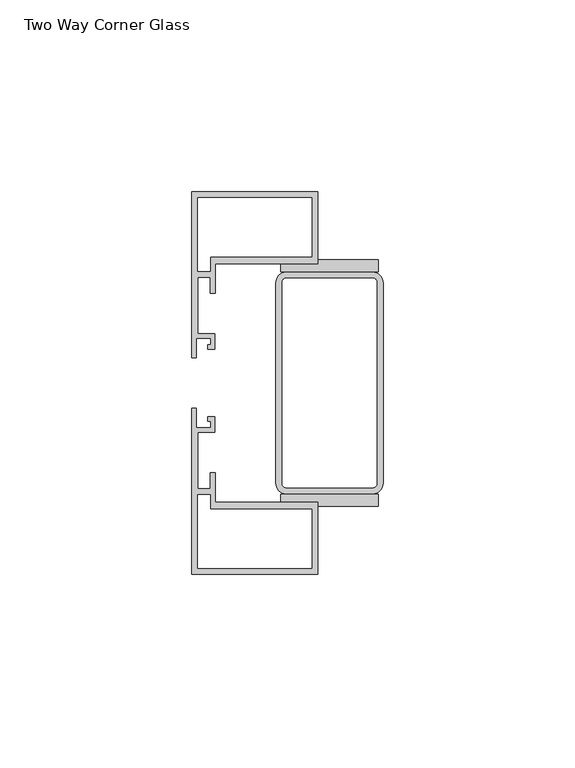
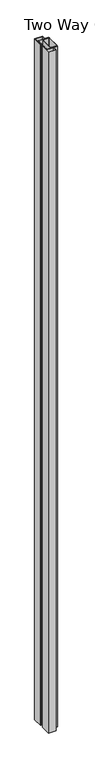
"""IFC4 building model written with IfcOpenShell, lengths in millimetres: proxy geometry, Connection-Corner-Teknion-OptosLP-Two_Way_FZCA1 : Two Way Corner Glass."""

from ifc_helpers import new_model, si_unit, frame, origin, origin_with_axes, place, context, project, spatial, polyline, circle_curve, outline, extrude, source, transform, mapped, element, save
from ifc_brep_helpers import plane_surface, cylinder_surface, revolved_surface, advanced_brep


def two_way_corner_glass_e2119c69(model_context):
    return source(origin(), model_context, "Body", "SolidModel", [
        extrude(outline(polyline([(-36.0146603, 6.5532999), (-36.0146603, 49.9872999), (-2.9946594, 49.9872999), (-2.9946594, 31.1912996), (-29.7916594, 31.1912996), (-29.7916594, 23.4881452), (-31.0616605, 23.4881452), (-31.0616605, 27.6606989), (-34.3636596, 27.6606989), (-34.3636596, 12.9032989), (-29.9186593, 12.9032989), (-29.9186593, 8.8393), (-31.7601598, 8.8393), (-31.7601598, 9.9822994), (-30.9346583, 9.9822994), (-30.9346583, 11.633299), (-34.7446615, 11.633299), (-34.7446615, 6.5532999), (-36.0146603, 6.5532999)]), holes=[polyline([(-31.0616605, 32.9946984), (-4.6456596, 32.9946984), (-4.6456596, 48.3363015), (-34.3636596, 48.3363015), (-34.3636596, 29.1846997), (-31.0616605, 29.1846997), (-31.0616605, 32.9946984)])]), origin_with_axes(), (0.0, 0.0, 1.0), 3048.0),
        extrude(outline(polyline([(-36.0146603, -49.9872999), (-36.0146603, -6.5532999), (-34.7446615, -6.5532999), (-34.7446615, -11.633299), (-30.9346583, -11.633299), (-30.9346583, -9.9822994), (-31.7601598, -9.9822994), (-31.7601598, -8.8393), (-29.9186593, -8.8393), (-29.9186593, -12.9032989), (-34.3636596, -12.9032989), (-34.3636596, -27.6606989), (-31.0616605, -27.6606989), (-31.0616605, -23.4881452), (-29.7916594, -23.4881452), (-29.7916594, -31.1912996), (-2.9946594, -31.1912996), (-2.9946594, -49.9872999), (-36.0146603, -49.9872999)]), holes=[polyline([(-31.0616605, -32.9946984), (-31.0616605, -29.1846997), (-34.3636596, -29.1846997), (-34.3636596, -48.3363015), (-4.6456596, -48.3363015), (-4.6456596, -32.9946984), (-31.0616605, -32.9946984)])]), origin_with_axes(), (0.0, 0.0, 1.0), 3048.0),
        extrude(outline(polyline([(12.7046009, 28.9941), (-12.6953999, 28.9941), (-12.6953999, 32.1690992), (12.7046009, 32.1690992), (12.7046009, 28.9941)])), origin_with_axes(), (0.0, 0.0, 1.0), 3048.0),
        extrude(outline(polyline([(12.7046009, -28.9941), (12.7046009, -32.1945002), (-12.6953999, -32.1945002), (-12.6953999, -28.9941), (12.7046009, -28.9941)])), origin_with_axes(), (0.0, 0.0, 1.0), 3048.0),
        advanced_brep(
        [(11.2013993, 28.9941, 3048.0), (-11.2013993, 28.9941, 3048.0), (-13.9954, 26.2000993, 3048.0), (-13.9954, -26.2000993, 3048.0), (-11.2013993, -28.9941, 3048.0), (11.2013993, -28.9941, 3048.0), (13.9954, -26.2000993, 3048.0), (14.004601, 26.2001004, 3048.0), (11.2013993, 27.3685, 3048.0), (12.3698, 26.2000993, 3048.0), (12.379001, -26.2000993, 3048.0), (11.2013993, -27.3685, 3048.0), (-11.2013993, -27.3685, 3048.0), (-12.3698, -26.2000993, 3048.0), (-12.3698, 26.2000993, 3048.0), (-11.2013993, 27.3685, 3048.0), (11.2013993, 28.9941, 0.0), (13.9954, 26.2000993, 0.0), (14.004601, -26.2000993, 0.0), (11.2013993, -28.9941, 0.0), (-11.2013993, -28.9941, 0.0), (-13.9954, -26.2000993, 0.0), (-13.9954, 26.2000993, 0.0), (-11.2013993, 28.9941, 0.0), (11.2013993, 27.3685, 0.0), (-11.2013993, 27.3685, 0.0), (-12.3698, 26.2000993, 0.0), (-12.3698, -26.2000993, 0.0), (-11.2013993, -27.3685, 0.0), (11.2013993, -27.3685, 0.0), (12.3698, -26.2000993, 0.0), (12.379001, 26.2001004, 0.0)],
        [
            (0, 1),
            (1, 2, circle_curve(frame((-11.2013993, 26.2000993, 3048.0), z_axis=(0.0, 0.0, 1.0), x_axis=(0.0, -1.0, 0.0)), 2.7940007)),
            (2, 3),
            (3, 4, circle_curve(frame((-11.2013993, -26.2000993, 3048.0), z_axis=(0.0, 0.0, 1.0), x_axis=(0.0, -1.0, 0.0)), 2.7940007)),
            (4, 5),
            (5, 6, circle_curve(frame((11.2013993, -26.2000993, 3048.0), z_axis=(0.0, 0.0, 1.0), x_axis=(0.0, -1.0, 0.0)), 2.7940007)),
            (6, 7),
            (7, 0, circle_curve(frame((11.2013993, 26.2000993, 3048.0), z_axis=(0.0, 0.0, 1.0), x_axis=(0.0, -1.0, 0.0)), 2.7940007)),
            (8, 9, circle_curve(frame((11.2013993, 26.2000993, 3048.0), z_axis=(0.0, 0.0, -1.0), x_axis=(0.0, -1.0, 0.0)), 1.1684007)),
            (9, 10),
            (10, 11, circle_curve(frame((11.2013993, -26.2000993, 3048.0), z_axis=(0.0, 0.0, -1.0), x_axis=(0.0, -1.0, 0.0)), 1.1684007)),
            (11, 12),
            (12, 13, circle_curve(frame((-11.2013993, -26.2000993, 3048.0), z_axis=(0.0, 0.0, -1.0), x_axis=(0.0, -1.0, 0.0)), 1.1684007)),
            (13, 14),
            (14, 15, circle_curve(frame((-11.2013993, 26.2000993, 3048.0), z_axis=(0.0, 0.0, -1.0), x_axis=(0.0, -1.0, 0.0)), 1.1684007)),
            (15, 8),
            (16, 17, circle_curve(frame((11.2013993, 26.2000993, 0.0), z_axis=(0.0, 0.0, -1.0), x_axis=(0.0, -1.0, 0.0)), 2.7940007)),
            (17, 18),
            (18, 19, circle_curve(frame((11.2013993, -26.2000993, 0.0), z_axis=(0.0, 0.0, -1.0), x_axis=(0.0, -1.0, 0.0)), 2.7940007)),
            (19, 20),
            (20, 21, circle_curve(frame((-11.2013993, -26.2000993, 0.0), z_axis=(0.0, 0.0, -1.0), x_axis=(0.0, -1.0, 0.0)), 2.7940007)),
            (21, 22),
            (22, 23, circle_curve(frame((-11.2013993, 26.2000993, 0.0), z_axis=(0.0, 0.0, -1.0), x_axis=(0.0, -1.0, 0.0)), 2.7940007)),
            (23, 16),
            (24, 25),
            (25, 26, circle_curve(frame((-11.2013993, 26.2000993, 0.0), z_axis=(0.0, 0.0, 1.0), x_axis=(0.0, -1.0, 0.0)), 1.1684007)),
            (26, 27),
            (27, 28, circle_curve(frame((-11.2013993, -26.2000993, 0.0), z_axis=(0.0, 0.0, 1.0), x_axis=(0.0, -1.0, 0.0)), 1.1684007)),
            (28, 29),
            (29, 30, circle_curve(frame((11.2013993, -26.2000993, 0.0), z_axis=(0.0, 0.0, 1.0), x_axis=(0.0, -1.0, 0.0)), 1.1684007)),
            (30, 31),
            (31, 24, circle_curve(frame((11.2013993, 26.2000993, 0.0), z_axis=(0.0, 0.0, 1.0), x_axis=(0.0, -1.0, 0.0)), 1.1684007)),
            (0, 16),
            (23, 1),
            (22, 2),
            (21, 3),
            (20, 4),
            (19, 5),
            (18, 6),
            (17, 7),
            (8, 24),
            (31, 9),
            (30, 10),
            (29, 11),
            (28, 12),
            (27, 13),
            (26, 14),
            (25, 15),
        ],
        [
            plane_surface(frame((0.0, 0.0, 3048.0), z_axis=(0.0, 0.0, 1.0), x_axis=(0.0, -1.0, 0.0))),
            plane_surface(frame((0.0, 0.0, 0.0), z_axis=(0.0, 0.0, -1.0), x_axis=(0.0, -1.0, 0.0))),
            plane_surface(frame((11.2013993, 28.9941, 3048.0), z_axis=(0.0, 1.0, 0.0), x_axis=(0.0, 0.0, -1.0))),
            cylinder_surface(frame((-11.2013993, 26.2000993, 3048.0), z_axis=(0.0, 0.0, 1.0), x_axis=(0.0, -1.0, 0.0)), 2.7940007),
            plane_surface(frame((-13.9954, 26.2000993, 3048.0), z_axis=(-1.0, 0.0, 0.0), x_axis=(0.0, 0.0, -1.0))),
            cylinder_surface(frame((-11.2013993, -26.2000993, 3048.0), z_axis=(0.0, 0.0, 1.0), x_axis=(0.0, -1.0, 0.0)), 2.7940007),
            plane_surface(frame((-11.2013993, -28.9941, 3048.0), z_axis=(0.0, -1.0, 0.0), x_axis=(0.0, 0.0, -1.0))),
            cylinder_surface(frame((11.2013993, -26.2000993, 3048.0), z_axis=(0.0, 0.0, 1.0), x_axis=(0.0, -1.0, 0.0)), 2.7940007),
            plane_surface(frame((14.004601, -26.2000993, 3048.0), z_axis=(1.0, 0.0, 0.0), x_axis=(0.0, 0.0, -1.0))),
            cylinder_surface(frame((11.2013993, 26.2000993, 3048.0), z_axis=(0.0, 0.0, 1.0), x_axis=(0.0, -1.0, 0.0)), 2.7940007),
            revolved_surface(polyline([(11.2013993, 25.031698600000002, 0.0), (11.2013993, 25.031698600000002, 3048.0)]), (11.2013993, 26.2000993, 3048.0), (0.0, 0.0, -1.0)),
            plane_surface(frame((12.379001, 26.2001004, 3048.0), z_axis=(-1.0, 0.0, 0.0), x_axis=(0.0, 0.0, -1.0))),
            revolved_surface(polyline([(11.2013993, -27.3685, 0.0), (11.2013993, -27.3685, 3048.0)]), (11.2013993, -26.2000993, 3048.0), (0.0, 0.0, -1.0)),
            plane_surface(frame((11.2013993, -27.3685, 3048.0), z_axis=(0.0, 1.0, 0.0), x_axis=(0.0, 0.0, -1.0))),
            revolved_surface(polyline([(-11.2013993, -27.3685, 0.0), (-11.2013993, -27.3685, 3048.0)]), (-11.2013993, -26.2000993, 3048.0), (0.0, 0.0, -1.0)),
            plane_surface(frame((-12.3698, -26.2000993, 3048.0), z_axis=(1.0, 0.0, 0.0), x_axis=(0.0, 0.0, -1.0))),
            revolved_surface(polyline([(-11.2013993, 25.031698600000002, 0.0), (-11.2013993, 25.031698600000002, 3048.0)]), (-11.2013993, 26.2000993, 3048.0), (0.0, 0.0, -1.0)),
            plane_surface(frame((-11.2013993, 27.3685, 3048.0), z_axis=(0.0, -1.0, 0.0), x_axis=(0.0, 0.0, -1.0))),
        ],
        [
            (0, [[1, 2, 3, 4, 5, 6, 7, 8], [9, 10, 11, 12, 13, 14, 15, 16]]),
            (1, [[17, 18, 19, 20, 21, 22, 23, 24], [25, 26, 27, 28, 29, 30, 31, 32]]),
            (2, [[-1, 33, -24, 34]]),
            (3, [[-2, -34, -23, 35]]),
            (4, [[-3, -35, -22, 36]]),
            (5, [[-4, -36, -21, 37]]),
            (6, [[-5, -37, -20, 38]]),
            (7, [[-6, -38, -19, 39]]),
            (8, [[-7, -39, -18, 40]]),
            (9, [[-8, -40, -17, -33]]),
            (10, [[-9, 41, -32, 42]]),
            (11, [[-10, -42, -31, 43]]),
            (12, [[-11, -43, -30, 44]]),
            (13, [[-12, -44, -29, 45]]),
            (14, [[-13, -45, -28, 46]]),
            (15, [[-14, -46, -27, 47]]),
            (16, [[-15, -47, -26, 48]]),
            (17, [[-16, -48, -25, -41]]),
        ],
    ),
    ])


if __name__ == "__main__":
    model = new_model("IFC4")
    model_context = context("Model", 3, world=origin())
    ifc_project = project(units=[si_unit("LENGTHUNIT", "METRE", prefix="MILLI")], contexts=[model_context])
    site = spatial("IfcSite", under=ifc_project)
    building = spatial("IfcBuilding", under=site)
    placement = place(None, origin())
    two_way_corner_glass_shape = two_way_corner_glass_e2119c69(model_context)
    element("IfcBuildingElementProxy", 1, Name="Connection-Corner-Teknion-OptosLP-Two_Way_FZCA1 : Two Way Corner Glass", ObjectType="Connection-Corner-Teknion-OptosLP-Two_Way_FZCA1 : Two Way Corner Glass", at=placement, inside=building, context=model_context, shape_type="MappedRepresentation", body=[
        mapped(two_way_corner_glass_shape, transform((0.0, 0.0, 0.0), x_axis=(1.0, 0.0, 0.0), y_axis=(0.0, 1.0, 0.0), z_axis=(0.0, 0.0, 1.0))),
    ])
    save(model, "model.ifc")
